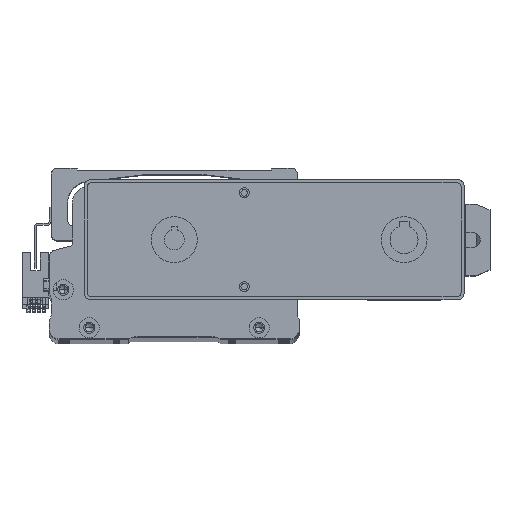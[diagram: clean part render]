
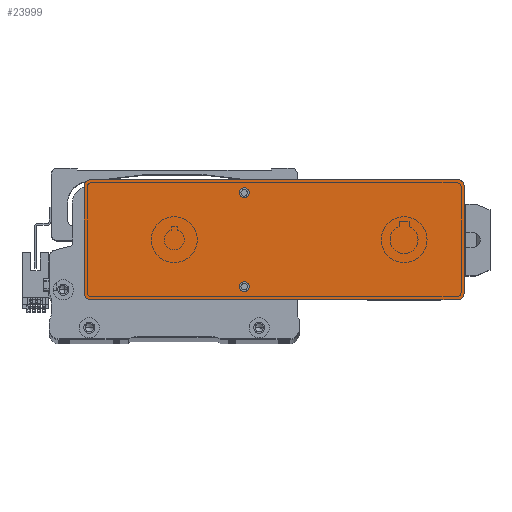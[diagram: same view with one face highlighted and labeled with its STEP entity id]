
A CAD part, top view. The second image highlights one B-rep face of the part: STEP entity #23999.
In plain terms, the highlighted planar face has unit normal (0, 0, 1) as drawn and (0, 0, -1) by its records, which use the part's own axes.
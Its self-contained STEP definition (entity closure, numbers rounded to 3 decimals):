
#575 = CARTESIAN_POINT ( 'NONE',  ( -92., 30., 0. ) ) ;
#1416 = CIRCLE ( 'NONE', #35238, 2.5 ) ;
#2259 = ORIENTED_EDGE ( 'NONE', *, *, #45256, .T. ) ;
#2910 = CARTESIAN_POINT ( 'NONE',  ( 92., -27., 0. ) ) ;
#5297 = VERTEX_POINT ( 'NONE', #56991 ) ;
#5554 = CARTESIAN_POINT ( 'NONE',  ( -95., 27., 0. ) ) ;
#5691 = VERTEX_POINT ( 'NONE', #38291 ) ;
#6036 = DIRECTION ( 'NONE',  ( 0., 0., -1. ) ) ;
#7515 = ORIENTED_EDGE ( 'NONE', *, *, #49431, .F. ) ;
#8154 = CIRCLE ( 'NONE', #49946, 3. ) ;
#9146 = CARTESIAN_POINT ( 'NONE',  ( 92., -30., 0. ) ) ;
#9269 = DIRECTION ( 'NONE',  ( 1., 0., 0. ) ) ;
#10209 = CARTESIAN_POINT ( 'NONE',  ( 92., 27., 0. ) ) ;
#10840 = VECTOR ( 'NONE', #68480, 1000. ) ;
#10900 = LINE ( 'NONE', #78048, #12899 ) ;
#12324 = DIRECTION ( 'NONE',  ( 0., 0., -1. ) ) ;
#12419 = CARTESIAN_POINT ( 'NONE',  ( 95., -30., 0. ) ) ;
#12462 = VERTEX_POINT ( 'NONE', #77569 ) ;
#12829 = LINE ( 'NONE', #17187, #10840 ) ;
#12899 = VECTOR ( 'NONE', #39663, 1000. ) ;
#13334 = CARTESIAN_POINT ( 'NONE',  ( 0., 0., 0. ) ) ;
#13824 = DIRECTION ( 'NONE',  ( 0., 0., -1. ) ) ;
#16639 = DIRECTION ( 'NONE',  ( 1., 0., 0. ) ) ;
#17187 = CARTESIAN_POINT ( 'NONE',  ( -95., -30., 0. ) ) ;
#18442 = CARTESIAN_POINT ( 'NONE',  ( 95., 30., 0. ) ) ;
#18847 = DIRECTION ( 'NONE',  ( 0., 1., 0. ) ) ;
#20101 = AXIS2_PLACEMENT_3D ( 'NONE', #27871, #72666, #34307 ) ;
#20699 = VERTEX_POINT ( 'NONE', #39887 ) ;
#22790 = EDGE_CURVE ( 'NONE', #75080, #40126, #68569, .T. ) ;
#22841 = CARTESIAN_POINT ( 'NONE',  ( -95., -27., 0. ) ) ;
#22918 = EDGE_CURVE ( 'NONE', #12462, #38958, #1416, .T. ) ;
#23999 = ADVANCED_FACE ( 'NONE', ( #31199, #46231, #44195 ), #38821, .F. ) ;
#27871 = CARTESIAN_POINT ( 'NONE',  ( -15., 23.5, 0. ) ) ;
#28476 = AXIS2_PLACEMENT_3D ( 'NONE', #75195, #36859, #81656 ) ;
#29753 = CARTESIAN_POINT ( 'NONE',  ( -12.5, -23.5, 0. ) ) ;
#31199 = FACE_BOUND ( 'NONE', #76723, .T. ) ;
#31200 = VECTOR ( 'NONE', #18847, 1000. ) ;
#32666 = DIRECTION ( 'NONE',  ( 0., 0., 1. ) ) ;
#33185 = EDGE_CURVE ( 'NONE', #43599, #45196, #68158, .T. ) ;
#33857 = EDGE_CURVE ( 'NONE', #75080, #59322, #12829, .T. ) ;
#33934 = CARTESIAN_POINT ( 'NONE',  ( -12.5, 23.5, 0. ) ) ;
#34307 = DIRECTION ( 'NONE',  ( -1., 0., 0. ) ) ;
#34984 = DIRECTION ( 'NONE',  ( 0., 0., -1. ) ) ;
#35238 = AXIS2_PLACEMENT_3D ( 'NONE', #52236, #13824, #58660 ) ;
#36299 = CIRCLE ( 'NONE', #28476, 2.5 ) ;
#36466 = EDGE_LOOP ( 'NONE', ( #7515, #2259, #50522, #47913, #79013, #62560, #39383, #57926 ) ) ;
#36859 = DIRECTION ( 'NONE',  ( 0., 0., -1. ) ) ;
#38291 = CARTESIAN_POINT ( 'NONE',  ( 95., -27., 0. ) ) ;
#38460 = VERTEX_POINT ( 'NONE', #9146 ) ;
#38821 = PLANE ( 'NONE',  #78780 ) ;
#38958 = VERTEX_POINT ( 'NONE', #29753 ) ;
#39383 = ORIENTED_EDGE ( 'NONE', *, *, #59023, .F. ) ;
#39647 = CARTESIAN_POINT ( 'NONE',  ( 92., 30., 0. ) ) ;
#39663 = DIRECTION ( 'NONE',  ( 1., 0., 0. ) ) ;
#39887 = CARTESIAN_POINT ( 'NONE',  ( 95., 27., 0. ) ) ;
#40126 = VERTEX_POINT ( 'NONE', #575 ) ;
#40618 = VERTEX_POINT ( 'NONE', #39647 ) ;
#43599 = VERTEX_POINT ( 'NONE', #44264 ) ;
#44195 = FACE_BOUND ( 'NONE', #63769, .T. ) ;
#44264 = CARTESIAN_POINT ( 'NONE',  ( -17.5, 23.5, 0. ) ) ;
#44352 = CARTESIAN_POINT ( 'NONE',  ( -92., 27., 0. ) ) ;
#45196 = VERTEX_POINT ( 'NONE', #33934 ) ;
#45256 = EDGE_CURVE ( 'NONE', #5691, #38460, #75865, .T. ) ;
#46231 = FACE_OUTER_BOUND ( 'NONE', #36466, .T. ) ;
#47580 = EDGE_CURVE ( 'NONE', #38958, #12462, #36299, .T. ) ;
#47674 = DIRECTION ( 'NONE',  ( 0., 0., -1. ) ) ;
#47913 = ORIENTED_EDGE ( 'NONE', *, *, #60172, .T. ) ;
#48257 = LINE ( 'NONE', #12419, #31200 ) ;
#48990 = EDGE_CURVE ( 'NONE', #5297, #38460, #10900, .T. ) ;
#49431 = EDGE_CURVE ( 'NONE', #5691, #20699, #48257, .T. ) ;
#49946 = AXIS2_PLACEMENT_3D ( 'NONE', #50729, #12324, #57165 ) ;
#50522 = ORIENTED_EDGE ( 'NONE', *, *, #48990, .F. ) ;
#50729 = CARTESIAN_POINT ( 'NONE',  ( -92., -27., 0. ) ) ;
#50853 = DIRECTION ( 'NONE',  ( 1., 0., 0. ) ) ;
#52236 = CARTESIAN_POINT ( 'NONE',  ( -15., -23.5, 0. ) ) ;
#52242 = ORIENTED_EDGE ( 'NONE', *, *, #33185, .F. ) ;
#54061 = AXIS2_PLACEMENT_3D ( 'NONE', #44352, #6036, #50853 ) ;
#54314 = AXIS2_PLACEMENT_3D ( 'NONE', #73321, #34984, #79805 ) ;
#55065 = DIRECTION ( 'NONE',  ( 0., 0., -1. ) ) ;
#55359 = EDGE_CURVE ( 'NONE', #40618, #20699, #73449, .T. ) ;
#56991 = CARTESIAN_POINT ( 'NONE',  ( -92., -30., 0. ) ) ;
#57165 = DIRECTION ( 'NONE',  ( 1., 0., 0. ) ) ;
#57926 = ORIENTED_EDGE ( 'NONE', *, *, #55359, .T. ) ;
#58660 = DIRECTION ( 'NONE',  ( -1., 0., 0. ) ) ;
#59023 = EDGE_CURVE ( 'NONE', #40618, #40126, #67428, .T. ) ;
#59322 = VERTEX_POINT ( 'NONE', #22841 ) ;
#60172 = EDGE_CURVE ( 'NONE', #5297, #59322, #8154, .T. ) ;
#62560 = ORIENTED_EDGE ( 'NONE', *, *, #22790, .T. ) ;
#62586 = ORIENTED_EDGE ( 'NONE', *, *, #70068, .F. ) ;
#63769 = EDGE_LOOP ( 'NONE', ( #66921, #70589 ) ) ;
#65421 = VECTOR ( 'NONE', #76136, 1000. ) ;
#66420 = AXIS2_PLACEMENT_3D ( 'NONE', #2910, #47674, #9269 ) ;
#66921 = ORIENTED_EDGE ( 'NONE', *, *, #22918, .F. ) ;
#67428 = LINE ( 'NONE', #18442, #65421 ) ;
#68158 = CIRCLE ( 'NONE', #54314, 2.5 ) ;
#68480 = DIRECTION ( 'NONE',  ( 0., -1., 0. ) ) ;
#68569 = CIRCLE ( 'NONE', #54061, 3. ) ;
#69502 = CIRCLE ( 'NONE', #20101, 2.5 ) ;
#70068 = EDGE_CURVE ( 'NONE', #45196, #43599, #69502, .T. ) ;
#70589 = ORIENTED_EDGE ( 'NONE', *, *, #47580, .F. ) ;
#72666 = DIRECTION ( 'NONE',  ( 0., 0., -1. ) ) ;
#73321 = CARTESIAN_POINT ( 'NONE',  ( -15., 23.5, 0. ) ) ;
#73449 = CIRCLE ( 'NONE', #82260, 3. ) ;
#75080 = VERTEX_POINT ( 'NONE', #5554 ) ;
#75195 = CARTESIAN_POINT ( 'NONE',  ( -15., -23.5, 0. ) ) ;
#75865 = CIRCLE ( 'NONE', #66420, 3. ) ;
#76136 = DIRECTION ( 'NONE',  ( -1., 0., 0. ) ) ;
#76723 = EDGE_LOOP ( 'NONE', ( #52242, #62586 ) ) ;
#77465 = DIRECTION ( 'NONE',  ( 1., 0., 0. ) ) ;
#77569 = CARTESIAN_POINT ( 'NONE',  ( -17.5, -23.5, 0. ) ) ;
#78048 = CARTESIAN_POINT ( 'NONE',  ( 95., -30., 0. ) ) ;
#78780 = AXIS2_PLACEMENT_3D ( 'NONE', #13334, #32666, #77465 ) ;
#79013 = ORIENTED_EDGE ( 'NONE', *, *, #33857, .F. ) ;
#79805 = DIRECTION ( 'NONE',  ( -1., 0., 0. ) ) ;
#81656 = DIRECTION ( 'NONE',  ( -1., 0., 0. ) ) ;
#82260 = AXIS2_PLACEMENT_3D ( 'NONE', #10209, #55065, #16639 ) ;
